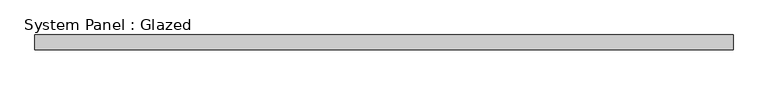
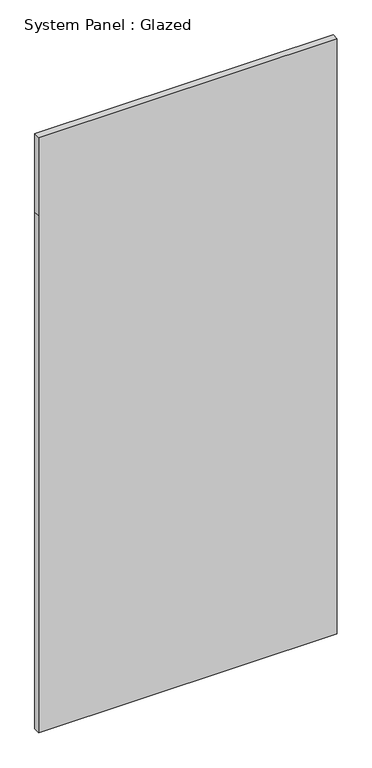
"""IFC4 building model written with IfcOpenShell, lengths in millimetres: plate geometry, System Panel : Glazed."""

from ifc_helpers import new_model, si_unit, frame, origin, place, context, project, spatial, polyline, outline, extrude, source, transform, mapped, element, save


def system_panel_glazed_65c4ff5a(model_context):
    return source(origin(), model_context, "Body", "SweptSolid", [
        extrude(outline(polyline([(0.0, -587.5), (0.0, 587.5), (2150.0, 587.5), (2475.0, 587.5), (2475.0, -587.5), (2150.0, -587.5), (0.0, -587.5)])), frame((0.0, 24.5, 0.0), z_axis=(0.0, 1.0, 0.0), x_axis=(0.0, 0.0, 1.0)), (0.0, 0.0, 1.0), 25.0),
    ])


if __name__ == "__main__":
    model = new_model("IFC4")
    model_context = context("Model", 3, world=origin())
    ifc_project = project(units=[si_unit("LENGTHUNIT", "METRE", prefix="MILLI")], contexts=[model_context])
    site = spatial("IfcSite", under=ifc_project)
    building = spatial("IfcBuilding", under=site)
    placement = place(None, origin())
    system_panel_glazed_shape = system_panel_glazed_65c4ff5a(model_context)
    element("IfcPlate", 1, ObjectType="System Panel : Glazed", at=placement, inside=building, context=model_context, shape_type="MappedRepresentation", body=[
        mapped(system_panel_glazed_shape, transform((0.0, 0.0, 0.0), x_axis=(1.0, 0.0, 0.0), y_axis=(0.0, 1.0, 0.0), z_axis=(0.0, 0.0, 1.0))),
    ])
    save(model, "model.ifc")
